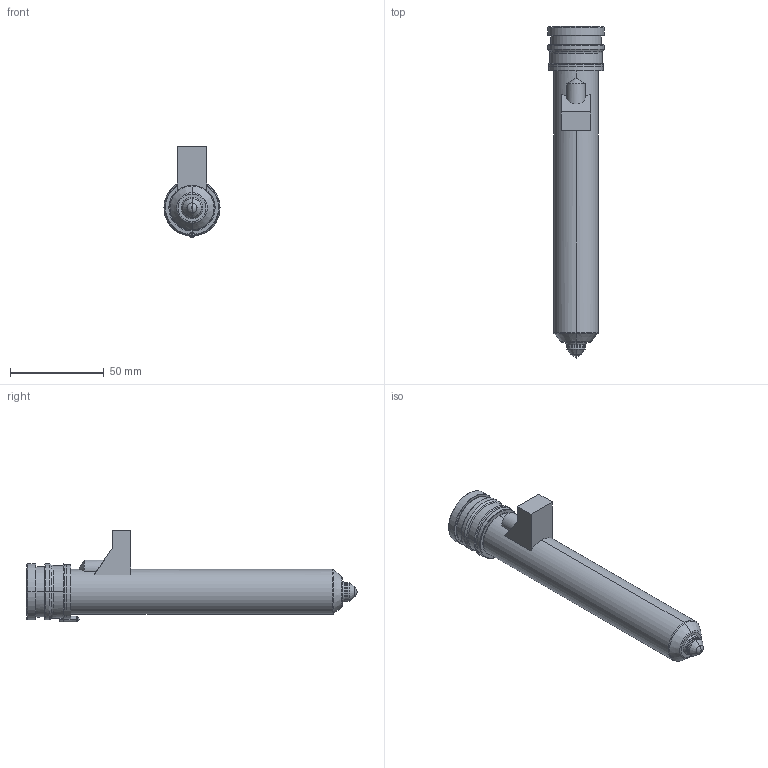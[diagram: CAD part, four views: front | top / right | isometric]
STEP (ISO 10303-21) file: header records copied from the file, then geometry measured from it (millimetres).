
FILE_DESCRIPTION((''),'2;1');
FILE_NAME('MPN-10-29-VX10-156-M','2026-02-05T12:57:28',('UPTIO'),('Thermoplay S.p.A.'),'CREO PARAMETRIC BY PTC INC, 2023494','CREO PARAMETRIC BY PTC INC, 2023494','');
FILE_SCHEMA(('CONFIG_CONTROL_DESIGN','SHAPE_APPEARANCE_LAYERS_GROUPS'));
Length unit declared in the file: millimetre
Products named in the file (1): MPN-10-29-VX10-156-M
Bounding box: 30 x 177.5 x 49 mm (x, y, z)
Volume: 54987 mm3; surface area: 56661.8 mm2
Topology: 3 solids, 5 shells, 547 faces, 1387 edges, 846 vertices
Faces by surface type: cylinder 179, plane 147, torus 71, bspline 70, cone 68, sphere 8, extrusion 4
Entity records: 28729 total; most frequent: CARTESIAN_POINT 12764, ORIENTED_EDGE 2760, DIRECTION 2638, EDGE_CURVE 1380, AXIS2_PLACEMENT_3D 1050, VERTEX_POINT 846, EDGE_LOOP 576, CIRCLE 576
